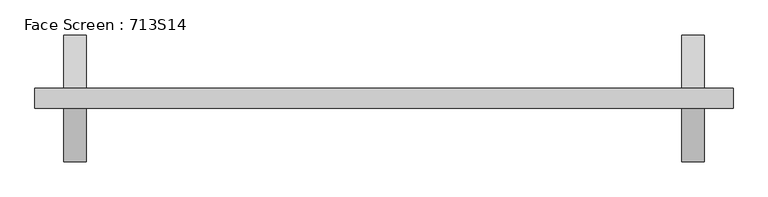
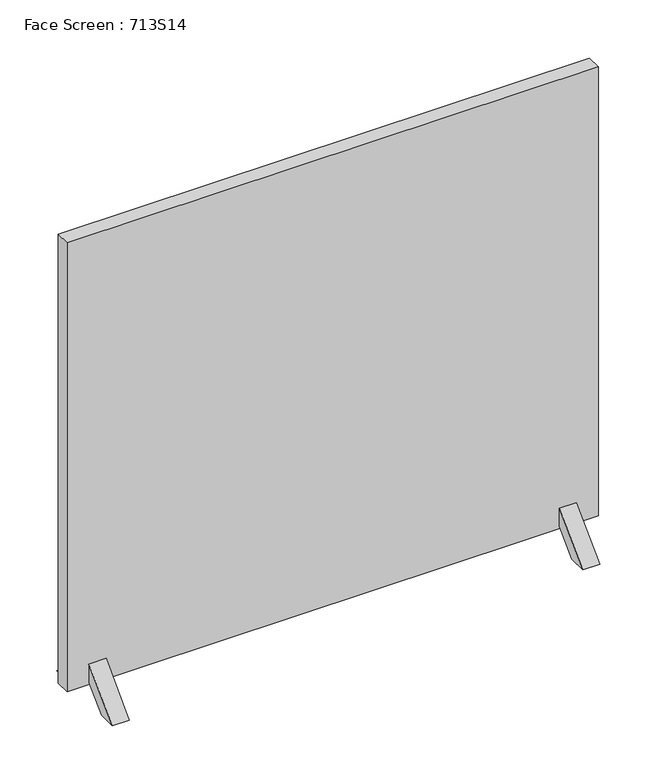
"""IFC4 building model written with IfcOpenShell, lengths in millimetres: furniture geometry, Face Screen : 713S14."""

from ifc_helpers import new_model, si_unit, frame, origin, place, context, project, spatial, polyline, outline, extrude, faceted_brep, source, transform, mapped, element, save


def face_screen_713s14_17c6f82f(model_context):
    return source(origin(), model_context, "Body", "SolidModel", [
        faceted_brep([(609.0, 20.0, 50.0955899), (609.0, 20.0, 57.4960966), (609.0, 37.6776695, 39.8184271), (609.0, -37.6776695, 39.8184271), (609.0, -20.0, 57.4960966), (609.0, -20.0, 50.0955899), (597.5, -126.9935713, 0.0), (642.5, -126.9935713, 0.0), (642.5, -20.0, 106.9935713), (597.5, -20.0, 106.9935713), (597.5, -77.4960966, 0.0), (642.5, -77.4960966, 0.0), (597.5, -20.0, 57.4960966), (631.0, -37.6776695, 39.8184271), (631.0, -20.0, 57.4960966), (642.5, -20.0, 57.4960966), (631.0, 20.0, 50.0955899), (631.0, -20.0, 50.0955899), (631.0, 37.6776695, 39.8184271), (631.0, 20.0, 57.4960966), (642.5, 20.0, 57.4960966), (642.5, 20.0, 106.9935713), (597.5, 20.0, 106.9935713), (597.5, 20.0, 57.4960966), (597.5, 126.9935713, 0.0), (597.5, 77.4960966, 0.0), (642.5, 77.4960966, 0.0), (642.5, 126.9935713, 0.0)], [[[0, 1, 2, 3, 4, 5]], [[6, 7, 8, 9]], [[10, 11, 7, 6]], [[12, 4, 3, 13, 14, 15, 11, 10]], [[16, 17, 14, 13, 18, 19]], [[5, 17, 16, 0]], [[4, 12, 9, 8, 15, 14, 17, 5]], [[2, 18, 13, 3]], [[0, 16, 19, 20, 21, 22, 23, 1]], [[22, 24, 25, 23]], [[9, 12, 10, 6]], [[21, 20, 26, 27]], [[8, 7, 11, 15]], [[25, 26, 20, 19, 18, 2, 1, 23]], [[24, 27, 26, 25]], [[22, 21, 27, 24]]]),
        faceted_brep([(-609.0, -20.0, 50.0955899), (-609.0, -20.0, 57.4960966), (-609.0, -37.6776695, 39.8184271), (-609.0, 37.6776695, 39.8184271), (-609.0, 20.0, 57.4960966), (-609.0, 20.0, 50.0955899), (-597.5, 126.9935713, 0.0), (-642.5, 126.9935713, 0.0), (-642.5, 20.0, 106.9935713), (-597.5, 20.0, 106.9935713), (-597.5, 77.4960966, 0.0), (-642.5, 77.4960966, 0.0), (-597.5, 20.0, 57.4960966), (-631.0, 37.6776695, 39.8184271), (-631.0, 20.0, 57.4960966), (-642.5, 20.0, 57.4960966), (-631.0, -20.0, 50.0955899), (-631.0, 20.0, 50.0955899), (-631.0, -37.6776695, 39.8184271), (-631.0, -20.0, 57.4960966), (-642.5, -20.0, 57.4960966), (-642.5, -20.0, 106.9935713), (-597.5, -20.0, 106.9935713), (-597.5, -20.0, 57.4960966), (-597.5, -126.9935713, 0.0), (-597.5, -77.4960966, 0.0), (-642.5, -77.4960966, 0.0), (-642.5, -126.9935713, 0.0)], [[[0, 1, 2, 3, 4, 5]], [[6, 7, 8, 9]], [[10, 11, 7, 6]], [[12, 4, 3, 13, 14, 15, 11, 10]], [[16, 17, 14, 13, 18, 19]], [[5, 17, 16, 0]], [[4, 12, 9, 8, 15, 14, 17, 5]], [[2, 18, 13, 3]], [[0, 16, 19, 20, 21, 22, 23, 1]], [[22, 24, 25, 23]], [[9, 12, 10, 6]], [[21, 20, 26, 27]], [[8, 7, 11, 15]], [[25, 26, 20, 19, 18, 2, 1, 23]], [[24, 27, 26, 25]], [[22, 21, 27, 24]]]),
        extrude(outline(polyline([(700.0, 20.0), (700.0, -20.0), (-700.0, -20.0), (-700.0, 20.0), (700.0, 20.0)])), frame((0.0, 0.0, 50.0), z_axis=(0.0, 0.0, 1.0), x_axis=(1.0, 0.0, 0.0)), (0.0, 0.0, 1.0), 1250.0),
    ])


if __name__ == "__main__":
    model = new_model("IFC4")
    model_context = context("Model", 3, world=origin())
    ifc_project = project(units=[si_unit("LENGTHUNIT", "METRE", prefix="MILLI")], contexts=[model_context])
    site = spatial("IfcSite", under=ifc_project)
    building = spatial("IfcBuilding", under=site)
    placement = place(None, origin())
    face_screen_713s14_shape = face_screen_713s14_17c6f82f(model_context)
    element("IfcFurniture", 1, ObjectType="Face Screen : 713S14", at=placement, inside=building, context=model_context, shape_type="MappedRepresentation", body=[
        mapped(face_screen_713s14_shape, transform((0.0, 0.0, 0.0), x_axis=(1.0, 0.0, 0.0), y_axis=(0.0, 1.0, 0.0), z_axis=(0.0, 0.0, 1.0))),
    ])
    save(model, "model.ifc")
